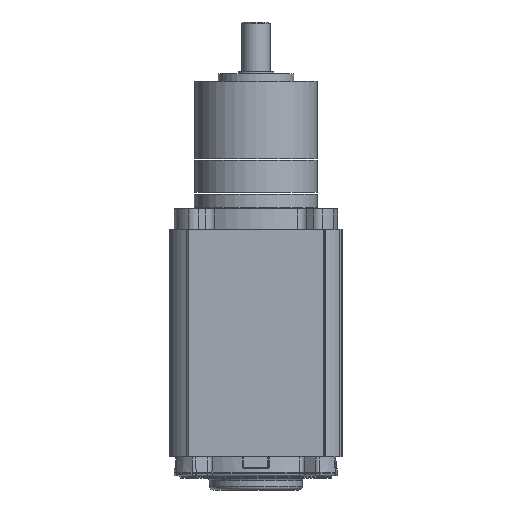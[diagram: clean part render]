
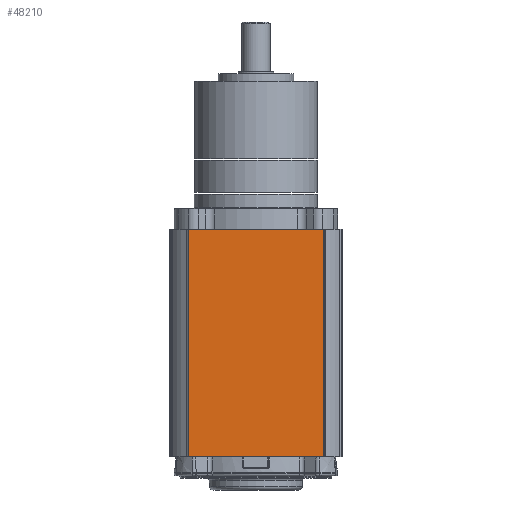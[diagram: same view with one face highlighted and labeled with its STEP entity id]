
A CAD part, front view. The second image highlights one B-rep face of the part: STEP entity #48210.
In plain terms, the highlighted planar face has unit normal (0, -1, 0).
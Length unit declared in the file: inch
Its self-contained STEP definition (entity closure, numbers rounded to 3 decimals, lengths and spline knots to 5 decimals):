
#1249 = ORIENTED_EDGE ( 'NONE', *, *, #51994, .T. ) ;
#4862 = VECTOR ( 'NONE', #30990, 39.37008 ) ;
#7227 = DIRECTION ( 'NONE',  ( 0., -1., 0. ) ) ;
#7562 = CARTESIAN_POINT ( 'NONE',  ( -1.1475, -1.442, -1.83454 ) ) ;
#7777 = VERTEX_POINT ( 'NONE', #13687 ) ;
#8230 = EDGE_LOOP ( 'NONE', ( #49715, #10904, #1249, #38858 ) ) ;
#9160 = AXIS2_PLACEMENT_3D ( 'NONE', #33123, #7227, #37467 ) ;
#10664 = EDGE_CURVE ( 'NONE', #52315, #7777, #44413, .T. ) ;
#10904 = ORIENTED_EDGE ( 'NONE', *, *, #52458, .F. ) ;
#11280 = VECTOR ( 'NONE', #19920, 39.37008 ) ;
#12788 = DIRECTION ( 'NONE',  ( -1., 0., 0. ) ) ;
#13687 = CARTESIAN_POINT ( 'NONE',  ( -1.1275, -1.442, -5.62954 ) ) ;
#14560 = VECTOR ( 'NONE', #55105, 39.37008 ) ;
#16377 = LINE ( 'NONE', #26687, #4862 ) ;
#17020 = EDGE_CURVE ( 'NONE', #52315, #18832, #37543, .T. ) ;
#18832 = VERTEX_POINT ( 'NONE', #44322 ) ;
#19920 = DIRECTION ( 'NONE',  ( 0., 0., -1. ) ) ;
#25873 = CARTESIAN_POINT ( 'NONE',  ( 1.1275, -1.442, -5.62954 ) ) ;
#26687 = CARTESIAN_POINT ( 'NONE',  ( 1.1275, -1.442, -5.76454 ) ) ;
#30990 = DIRECTION ( 'NONE',  ( 0., 0., 1. ) ) ;
#31867 = CARTESIAN_POINT ( 'NONE',  ( 1.1275, -1.442, -5.62954 ) ) ;
#32208 = VERTEX_POINT ( 'NONE', #31867 ) ;
#33123 = CARTESIAN_POINT ( 'NONE',  ( -1.1475, -1.442, -5.76454 ) ) ;
#37284 = PLANE ( 'NONE',  #9160 ) ;
#37467 = DIRECTION ( 'NONE',  ( 1., 0., 0. ) ) ;
#37543 = LINE ( 'NONE', #7562, #14560 ) ;
#38858 = ORIENTED_EDGE ( 'NONE', *, *, #17020, .F. ) ;
#38906 = FACE_OUTER_BOUND ( 'NONE', #8230, .T. ) ;
#44322 = CARTESIAN_POINT ( 'NONE',  ( 1.1275, -1.442, -1.83454 ) ) ;
#44413 = LINE ( 'NONE', #45797, #11280 ) ;
#44622 = LINE ( 'NONE', #25873, #54704 ) ;
#45797 = CARTESIAN_POINT ( 'NONE',  ( -1.1275, -1.442, -5.76454 ) ) ;
#48210 = ADVANCED_FACE ( 'NONE', ( #38906 ), #37284, .T. ) ;
#49715 = ORIENTED_EDGE ( 'NONE', *, *, #10664, .T. ) ;
#51994 = EDGE_CURVE ( 'NONE', #32208, #18832, #16377, .T. ) ;
#52315 = VERTEX_POINT ( 'NONE', #54663 ) ;
#52458 = EDGE_CURVE ( 'NONE', #32208, #7777, #44622, .T. ) ;
#54663 = CARTESIAN_POINT ( 'NONE',  ( -1.1275, -1.442, -1.83454 ) ) ;
#54704 = VECTOR ( 'NONE', #12788, 39.37008 ) ;
#55105 = DIRECTION ( 'NONE',  ( 1., 0., 0. ) ) ;
